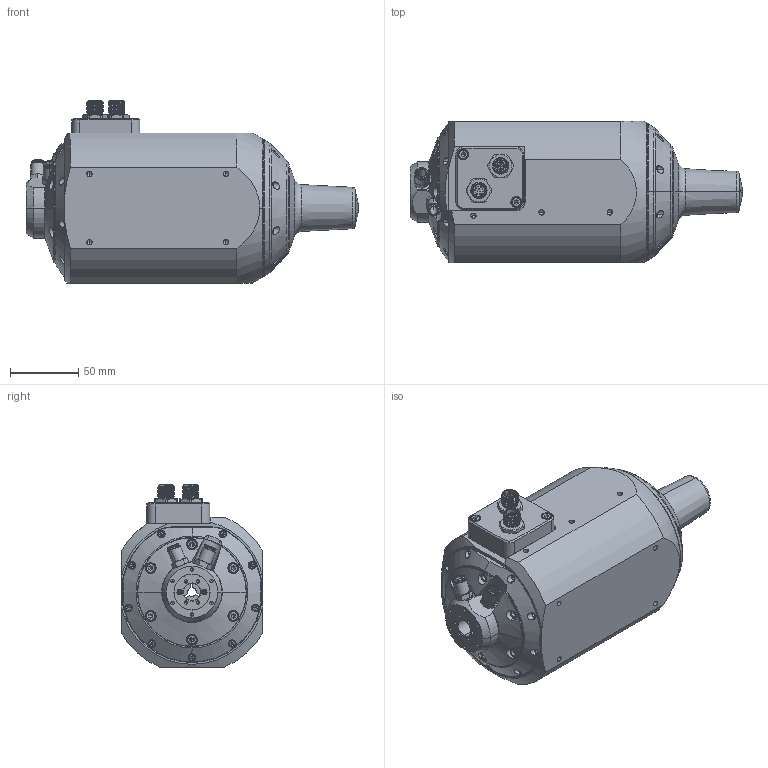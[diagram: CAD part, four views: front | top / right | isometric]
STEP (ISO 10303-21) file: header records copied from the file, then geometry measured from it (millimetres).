
FILE_DESCRIPTION (( 'STEP AP214' ), '1' );
FILE_NAME ('3CS Spindle-EXPORT.STEP', '2026-04-27T12:58:43', ( 'lab' ), ( '' ), 'SwSTEP 2.0', 'SolidWorks 2018', '' );
FILE_SCHEMA (( 'AUTOMOTIVE_DESIGN' ));
Length unit declared in the file: millimetre
Products named in the file (9): 1000003_file_export4; 1000008_file_export8; 1000005_file_export6; 1000006_file_export7; 1000004_file_export5; 1000001_file_export2; 1000002_file_export3; 3CS Spindle-EXPORT; 1000007_file_export1
Assembly tree (9 placements, depth 2):
  3CS Spindle-EXPORT
    1000001_file_export2
    1000002_file_export3
    1000003_file_export4
    1000004_file_export5
    1000005_file_export6
    1000006_file_export7  x2
    1000007_file_export1
    1000008_file_export8
Bounding box: 243.46 x 104 x 133.5 mm (x, y, z)
Volume: 1714121.1 mm3; surface area: 211801 mm2
Topology: 11 solids, 11 shells, 1597 faces, 3886 edges, 2368 vertices
Faces by surface type: plane 575, cylinder 523, cone 309, torus 126, bspline 60, sphere 4
Entity records: 87072 total; most frequent: CARTESIAN_POINT 51264, DIRECTION 7180, ORIENTED_EDGE 7140, EDGE_CURVE 3570, AXIS2_PLACEMENT_3D 2790, VERTEX_POINT 2236, EDGE_LOOP 1676, LINE 1600
